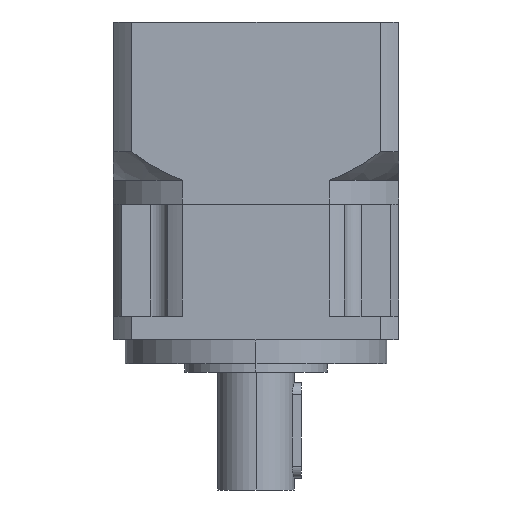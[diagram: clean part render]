
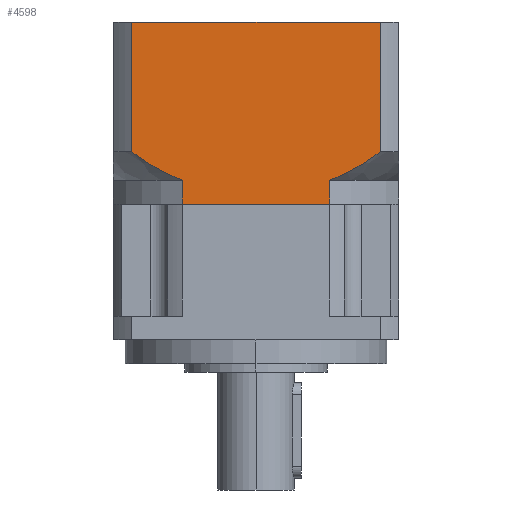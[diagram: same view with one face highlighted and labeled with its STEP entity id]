
A CAD part, left-side view. The second image highlights one B-rep face of the part: STEP entity #4598.
In plain terms, the highlighted planar face has unit normal (-1, 0, 0) as drawn and (0, 0, 1) by its records, which use the part's own axes.
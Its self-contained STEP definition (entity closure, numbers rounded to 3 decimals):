
#159 = CARTESIAN_POINT ( 'NONE',  ( 0., -30.923, 60. ) ) ;
#321 = CARTESIAN_POINT ( 'NONE',  ( 10., -30.923, 60. ) ) ;
#422 = CARTESIAN_POINT ( 'NONE',  ( 18.956, 48.06, 60. ) ) ;
#604 = CARTESIAN_POINT ( 'NONE',  ( 76.5, -60., 60. ) ) ;
#768 = CARTESIAN_POINT ( 'NONE',  ( 0., 30.923, 60. ) ) ;
#816 = LINE ( 'NONE', #3939, #8165 ) ;
#923 = VECTOR ( 'NONE', #3360, 1000. ) ;
#1025 = AXIS2_PLACEMENT_3D ( 'NONE', #604, #3646, #8506 ) ;
#1044 = LINE ( 'NONE', #4710, #7974 ) ;
#1105 = CARTESIAN_POINT ( 'NONE',  ( 10.737, -32.833, 60. ) ) ;
#1146 = ORIENTED_EDGE ( 'NONE', *, *, #9265, .T. ) ;
#1212 = CARTESIAN_POINT ( 'NONE',  ( 16.108, 43.517, 60. ) ) ;
#1838 = CARTESIAN_POINT ( 'NONE',  ( 13.524, -38.841, 60. ) ) ;
#1896 = VERTEX_POINT ( 'NONE', #5079 ) ;
#1930 = CARTESIAN_POINT ( 'NONE',  ( 15.466, 42.41, 60. ) ) ;
#2345 = VERTEX_POINT ( 'NONE', #8881 ) ;
#2533 = B_SPLINE_CURVE_WITH_KNOTS ( 'NONE', 3,
 ( #321, #1105, #6233, #1838, #6870, #2632, #7534, #3384, #8220, #4121 ),
 .UNSPECIFIED., .F., .F.,
 ( 4, 1, 1, 2, 2, 4 ),
 ( 0., 0.25, 0.375, 0.437, 0.5, 1. ),
 .UNSPECIFIED. ) ;
#2570 = CARTESIAN_POINT ( 'NONE',  ( 0., 52.156, 60. ) ) ;
#2610 = CARTESIAN_POINT ( 'NONE',  ( 0., -52.156, 60. ) ) ;
#2632 = CARTESIAN_POINT ( 'NONE',  ( 14.723, -41.088, 60. ) ) ;
#2749 = CARTESIAN_POINT ( 'NONE',  ( 13.211, 38.418, 60. ) ) ;
#2956 = LINE ( 'NONE', #2610, #923 ) ;
#3107 = VERTEX_POINT ( 'NONE', #3286 ) ;
#3286 = CARTESIAN_POINT ( 'NONE',  ( 22., -52.156, 60. ) ) ;
#3360 = DIRECTION ( 'NONE',  ( 1., 0., 0. ) ) ;
#3384 = CARTESIAN_POINT ( 'NONE',  ( 17.234, -45.542, 60. ) ) ;
#3427 = CARTESIAN_POINT ( 'NONE',  ( 76.5, 0., 60. ) ) ;
#3456 = CARTESIAN_POINT ( 'NONE',  ( 10., -30.923, 60. ) ) ;
#3478 = CARTESIAN_POINT ( 'NONE',  ( 10., 30.923, 60. ) ) ;
#3646 = DIRECTION ( 'NONE',  ( 0., 0., 1. ) ) ;
#3746 = EDGE_LOOP ( 'NONE', ( #5086, #8518, #5440, #5132, #1146, #5865, #5183, #7273 ) ) ;
#3810 = CARTESIAN_POINT ( 'NONE',  ( 0., -60., 60. ) ) ;
#3939 = CARTESIAN_POINT ( 'NONE',  ( 0., 30.923, 60. ) ) ;
#3971 = DIRECTION ( 'NONE',  ( -1., 0., 0. ) ) ;
#4121 = CARTESIAN_POINT ( 'NONE',  ( 22., -52.156, 60. ) ) ;
#4146 = EDGE_CURVE ( 'NONE', #1896, #2345, #7904, .T. ) ;
#4167 = VERTEX_POINT ( 'NONE', #3456 ) ;
#4598 = ADVANCED_FACE ( 'NONE', ( #9362 ), #7090, .T. ) ;
#4710 = CARTESIAN_POINT ( 'NONE',  ( 0., -30.923, 60. ) ) ;
#4734 = VERTEX_POINT ( 'NONE', #768 ) ;
#4953 = B_SPLINE_CURVE_WITH_KNOTS ( 'NONE', 3,
 ( #6928, #9042, #422, #5617, #1212, #6319, #1930, #6951, #2749, #7633, #3478 ),
 .UNSPECIFIED., .F., .F.,
 ( 4, 1, 1, 1, 2, 2, 4 ),
 ( 0., 0.25, 0.375, 0.437, 0.469, 0.5, 1. ),
 .UNSPECIFIED. ) ;
#4992 = VERTEX_POINT ( 'NONE', #159 ) ;
#5079 = CARTESIAN_POINT ( 'NONE',  ( 76.5, -52.156, 60. ) ) ;
#5086 = ORIENTED_EDGE ( 'NONE', *, *, #8983, .T. ) ;
#5132 = ORIENTED_EDGE ( 'NONE', *, *, #9086, .T. ) ;
#5183 = ORIENTED_EDGE ( 'NONE', *, *, #9228, .T. ) ;
#5436 = DIRECTION ( 'NONE',  ( 1., 0., 0. ) ) ;
#5440 = ORIENTED_EDGE ( 'NONE', *, *, #9010, .T. ) ;
#5617 = CARTESIAN_POINT ( 'NONE',  ( 17.03, 45.05, 60. ) ) ;
#5865 = ORIENTED_EDGE ( 'NONE', *, *, #4146, .T. ) ;
#6137 = VECTOR ( 'NONE', #8257, 1000. ) ;
#6233 = CARTESIAN_POINT ( 'NONE',  ( 11.943, -35.647, 60. ) ) ;
#6319 = CARTESIAN_POINT ( 'NONE',  ( 15.722, 42.853, 60. ) ) ;
#6395 = VERTEX_POINT ( 'NONE', #8888 ) ;
#6605 = DIRECTION ( 'NONE',  ( 0., 1., 0. ) ) ;
#6870 = CARTESIAN_POINT ( 'NONE',  ( 14.238, -40.192, 60. ) ) ;
#6899 = VECTOR ( 'NONE', #8940, 1000. ) ;
#6928 = CARTESIAN_POINT ( 'NONE',  ( 22., 52.156, 60. ) ) ;
#6951 = CARTESIAN_POINT ( 'NONE',  ( 15.338, 42.186, 60. ) ) ;
#7090 = PLANE ( 'NONE',  #1025 ) ;
#7225 = VERTEX_POINT ( 'NONE', #7522 ) ;
#7273 = ORIENTED_EDGE ( 'NONE', *, *, #9133, .T. ) ;
#7522 = CARTESIAN_POINT ( 'NONE',  ( 10., 30.923, 60. ) ) ;
#7534 = CARTESIAN_POINT ( 'NONE',  ( 14.969, -41.532, 60. ) ) ;
#7633 = CARTESIAN_POINT ( 'NONE',  ( 11.473, 34.738, 60. ) ) ;
#7904 = LINE ( 'NONE', #3427, #6137 ) ;
#7974 = VECTOR ( 'NONE', #5436, 1000. ) ;
#8165 = VECTOR ( 'NONE', #3971, 1000. ) ;
#8220 = CARTESIAN_POINT ( 'NONE',  ( 19.493, -48.935, 60. ) ) ;
#8257 = DIRECTION ( 'NONE',  ( 0., 1., 0. ) ) ;
#8506 = DIRECTION ( 'NONE',  ( 1., 0., 0. ) ) ;
#8518 = ORIENTED_EDGE ( 'NONE', *, *, #8897, .F. ) ;
#8773 = LINE ( 'NONE', #2570, #6899 ) ;
#8881 = CARTESIAN_POINT ( 'NONE',  ( 76.5, 52.156, 60. ) ) ;
#8887 = VECTOR ( 'NONE', #6605, 1000. ) ;
#8888 = CARTESIAN_POINT ( 'NONE',  ( 22., 52.156, 60. ) ) ;
#8897 = EDGE_CURVE ( 'NONE', #4992, #4734, #9097, .T. ) ;
#8940 = DIRECTION ( 'NONE',  ( -1., 0., 0. ) ) ;
#8983 = EDGE_CURVE ( 'NONE', #7225, #4734, #816, .T. ) ;
#9010 = EDGE_CURVE ( 'NONE', #4992, #4167, #1044, .T. ) ;
#9042 = CARTESIAN_POINT ( 'NONE',  ( 20.745, 50.544, 60. ) ) ;
#9086 = EDGE_CURVE ( 'NONE', #4167, #3107, #2533, .T. ) ;
#9097 = LINE ( 'NONE', #3810, #8887 ) ;
#9133 = EDGE_CURVE ( 'NONE', #6395, #7225, #4953, .T. ) ;
#9228 = EDGE_CURVE ( 'NONE', #2345, #6395, #8773, .T. ) ;
#9265 = EDGE_CURVE ( 'NONE', #3107, #1896, #2956, .T. ) ;
#9362 = FACE_OUTER_BOUND ( 'NONE', #3746, .T. ) ;
